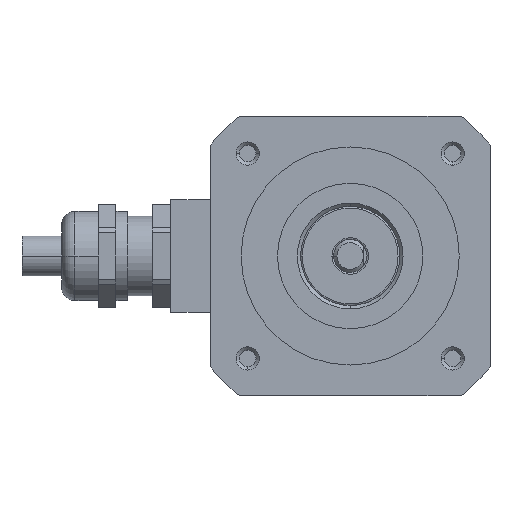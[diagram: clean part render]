
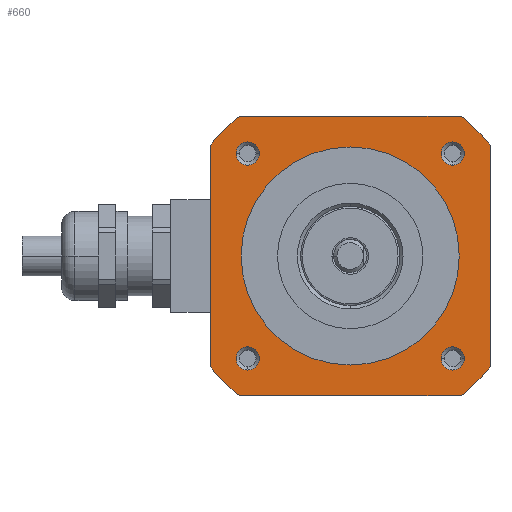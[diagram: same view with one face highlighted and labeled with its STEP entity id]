
A CAD part, front view. The second image highlights one B-rep face of the part: STEP entity #660.
In plain terms, the highlighted planar face has unit normal (0, -1, 0).
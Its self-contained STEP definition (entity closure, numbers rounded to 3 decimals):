
#1=CARTESIAN_POINT('',(0.,0.,0.));
#2=DIRECTION('',(0.,1.,0.));
#3=DIRECTION('',(-0.622,0.,-0.783));
#4=AXIS2_PLACEMENT_3D('',#1,#2,#3);
#6=DIRECTION('',(0.,0.,1.));
#7=VECTOR('',#6,33.567);
#8=CARTESIAN_POINT('',(-21.15,0.,-16.783));
#9=LINE('',#8,#7);
#10=CARTESIAN_POINT('',(0.,0.,0.));
#11=DIRECTION('',(0.,1.,0.));
#12=DIRECTION('',(-0.783,0.,0.622));
#13=AXIS2_PLACEMENT_3D('',#10,#11,#12);
#15=DIRECTION('',(1.,0.,0.));
#16=VECTOR('',#15,33.567);
#17=CARTESIAN_POINT('',(-16.783,0.,21.15));
#18=LINE('',#17,#16);
#19=CARTESIAN_POINT('',(0.,0.,0.));
#20=DIRECTION('',(0.,1.,0.));
#21=DIRECTION('',(0.622,0.,0.783));
#22=AXIS2_PLACEMENT_3D('',#19,#20,#21);
#24=DIRECTION('',(0.,0.,-1.));
#25=VECTOR('',#24,33.567);
#26=CARTESIAN_POINT('',(21.15,0.,16.783));
#27=LINE('',#26,#25);
#28=CARTESIAN_POINT('',(0.,0.,0.));
#29=DIRECTION('',(0.,1.,0.));
#30=DIRECTION('',(0.783,0.,-0.622));
#31=AXIS2_PLACEMENT_3D('',#28,#29,#30);
#33=DIRECTION('',(-1.,0.,0.));
#34=VECTOR('',#33,33.567);
#35=CARTESIAN_POINT('',(16.783,0.,-21.15));
#36=LINE('',#35,#34);
#37=CARTESIAN_POINT('',(0.,0.,0.));
#38=DIRECTION('',(0.,1.,0.));
#39=DIRECTION('',(0.,0.,1.));
#40=AXIS2_PLACEMENT_3D('',#37,#38,#39);
#42=CARTESIAN_POINT('',(0.,0.,0.));
#43=DIRECTION('',(0.,1.,0.));
#44=DIRECTION('',(0.,0.,-1.));
#45=AXIS2_PLACEMENT_3D('',#42,#43,#44);
#47=CARTESIAN_POINT('',(-15.5,0.,-15.5));
#48=DIRECTION('',(0.,1.,0.));
#49=DIRECTION('',(0.,0.,1.));
#50=AXIS2_PLACEMENT_3D('',#47,#48,#49);
#52=CARTESIAN_POINT('',(-15.5,0.,-15.5));
#53=DIRECTION('',(0.,1.,0.));
#54=DIRECTION('',(0.,0.,-1.));
#55=AXIS2_PLACEMENT_3D('',#52,#53,#54);
#57=CARTESIAN_POINT('',(15.5,0.,-15.5));
#58=DIRECTION('',(0.,1.,0.));
#59=DIRECTION('',(1.,0.,0.));
#60=AXIS2_PLACEMENT_3D('',#57,#58,#59);
#62=CARTESIAN_POINT('',(15.5,0.,-15.5));
#63=DIRECTION('',(0.,1.,0.));
#64=DIRECTION('',(-1.,0.,0.));
#65=AXIS2_PLACEMENT_3D('',#62,#63,#64);
#67=CARTESIAN_POINT('',(15.5,0.,15.5));
#68=DIRECTION('',(0.,1.,0.));
#69=DIRECTION('',(0.,0.,1.));
#70=AXIS2_PLACEMENT_3D('',#67,#68,#69);
#72=CARTESIAN_POINT('',(15.5,0.,15.5));
#73=DIRECTION('',(0.,1.,0.));
#74=DIRECTION('',(0.,0.,-1.));
#75=AXIS2_PLACEMENT_3D('',#72,#73,#74);
#77=CARTESIAN_POINT('',(-15.5,0.,15.5));
#78=DIRECTION('',(0.,1.,0.));
#79=DIRECTION('',(1.,0.,0.));
#80=AXIS2_PLACEMENT_3D('',#77,#78,#79);
#82=CARTESIAN_POINT('',(-15.5,0.,15.5));
#83=DIRECTION('',(0.,1.,0.));
#84=DIRECTION('',(-1.,0.,0.));
#85=AXIS2_PLACEMENT_3D('',#82,#83,#84);
#463=CARTESIAN_POINT('',(-16.783,0.,-21.15));
#464=CARTESIAN_POINT('',(-21.15,0.,-16.783));
#465=VERTEX_POINT('',#463);
#466=VERTEX_POINT('',#464);
#467=CARTESIAN_POINT('',(-21.15,0.,16.783));
#468=VERTEX_POINT('',#467);
#469=CARTESIAN_POINT('',(-16.783,0.,21.15));
#470=VERTEX_POINT('',#469);
#471=CARTESIAN_POINT('',(16.783,0.,21.15));
#472=VERTEX_POINT('',#471);
#473=CARTESIAN_POINT('',(21.15,0.,16.783));
#474=VERTEX_POINT('',#473);
#475=CARTESIAN_POINT('',(21.15,0.,-16.783));
#476=VERTEX_POINT('',#475);
#477=CARTESIAN_POINT('',(16.783,0.,-21.15));
#478=VERTEX_POINT('',#477);
#527=CARTESIAN_POINT('',(0.,0.,16.5));
#528=CARTESIAN_POINT('',(0.,0.,-16.5));
#529=VERTEX_POINT('',#527);
#530=VERTEX_POINT('',#528);
#575=CARTESIAN_POINT('',(-15.5,0.,-13.75));
#576=CARTESIAN_POINT('',(-15.5,0.,-17.25));
#577=VERTEX_POINT('',#575);
#578=VERTEX_POINT('',#576);
#583=CARTESIAN_POINT('',(17.25,0.,-15.5));
#584=CARTESIAN_POINT('',(13.75,0.,-15.5));
#585=VERTEX_POINT('',#583);
#586=VERTEX_POINT('',#584);
#591=CARTESIAN_POINT('',(15.5,0.,17.25));
#592=CARTESIAN_POINT('',(15.5,0.,13.75));
#593=VERTEX_POINT('',#591);
#594=VERTEX_POINT('',#592);
#599=CARTESIAN_POINT('',(-13.75,0.,15.5));
#600=CARTESIAN_POINT('',(-17.25,0.,15.5));
#601=VERTEX_POINT('',#599);
#602=VERTEX_POINT('',#600);
#607=CARTESIAN_POINT('',(0.,0.,0.));
#608=DIRECTION('',(0.,1.,0.));
#609=DIRECTION('',(1.,0.,0.));
#610=AXIS2_PLACEMENT_3D('',#607,#608,#609);
#611=PLANE('',#610);
#613=ORIENTED_EDGE('',*,*,#612,.T.);
#615=ORIENTED_EDGE('',*,*,#614,.T.);
#617=ORIENTED_EDGE('',*,*,#616,.T.);
#619=ORIENTED_EDGE('',*,*,#618,.T.);
#621=ORIENTED_EDGE('',*,*,#620,.T.);
#623=ORIENTED_EDGE('',*,*,#622,.T.);
#625=ORIENTED_EDGE('',*,*,#624,.T.);
#627=ORIENTED_EDGE('',*,*,#626,.T.);
#628=EDGE_LOOP('',(#613,#615,#617,#619,#621,#623,#625,#627));
#629=FACE_OUTER_BOUND('',#628,.F.);
#631=ORIENTED_EDGE('',*,*,#630,.F.);
#633=ORIENTED_EDGE('',*,*,#632,.F.);
#634=EDGE_LOOP('',(#631,#633));
#635=FACE_BOUND('',#634,.F.);
#637=ORIENTED_EDGE('',*,*,#636,.F.);
#639=ORIENTED_EDGE('',*,*,#638,.F.);
#640=EDGE_LOOP('',(#637,#639));
#641=FACE_BOUND('',#640,.F.);
#643=ORIENTED_EDGE('',*,*,#642,.F.);
#645=ORIENTED_EDGE('',*,*,#644,.F.);
#646=EDGE_LOOP('',(#643,#645));
#647=FACE_BOUND('',#646,.F.);
#649=ORIENTED_EDGE('',*,*,#648,.F.);
#651=ORIENTED_EDGE('',*,*,#650,.F.);
#652=EDGE_LOOP('',(#649,#651));
#653=FACE_BOUND('',#652,.F.);
#655=ORIENTED_EDGE('',*,*,#654,.F.);
#657=ORIENTED_EDGE('',*,*,#656,.F.);
#658=EDGE_LOOP('',(#655,#657));
#659=FACE_BOUND('',#658,.F.);
#660=ADVANCED_FACE('',(#629,#635,#641,#647,#653,#659),#611,.F.);
#5=CIRCLE('',#4,27.);
#14=CIRCLE('',#13,27.);
#23=CIRCLE('',#22,27.);
#32=CIRCLE('',#31,27.);
#41=CIRCLE('',#40,16.5);
#46=CIRCLE('',#45,16.5);
#51=CIRCLE('',#50,1.75);
#56=CIRCLE('',#55,1.75);
#61=CIRCLE('',#60,1.75);
#66=CIRCLE('',#65,1.75);
#71=CIRCLE('',#70,1.75);
#76=CIRCLE('',#75,1.75);
#81=CIRCLE('',#80,1.75);
#86=CIRCLE('',#85,1.75);
#612=EDGE_CURVE('',#465,#466,#5,.T.);
#614=EDGE_CURVE('',#466,#468,#9,.T.);
#616=EDGE_CURVE('',#468,#470,#14,.T.);
#618=EDGE_CURVE('',#470,#472,#18,.T.);
#620=EDGE_CURVE('',#472,#474,#23,.T.);
#622=EDGE_CURVE('',#474,#476,#27,.T.);
#624=EDGE_CURVE('',#476,#478,#32,.T.);
#626=EDGE_CURVE('',#478,#465,#36,.T.);
#630=EDGE_CURVE('',#529,#530,#41,.T.);
#632=EDGE_CURVE('',#530,#529,#46,.T.);
#636=EDGE_CURVE('',#577,#578,#51,.T.);
#638=EDGE_CURVE('',#578,#577,#56,.T.);
#642=EDGE_CURVE('',#585,#586,#61,.T.);
#644=EDGE_CURVE('',#586,#585,#66,.T.);
#648=EDGE_CURVE('',#593,#594,#71,.T.);
#650=EDGE_CURVE('',#594,#593,#76,.T.);
#654=EDGE_CURVE('',#601,#602,#81,.T.);
#656=EDGE_CURVE('',#602,#601,#86,.T.);
